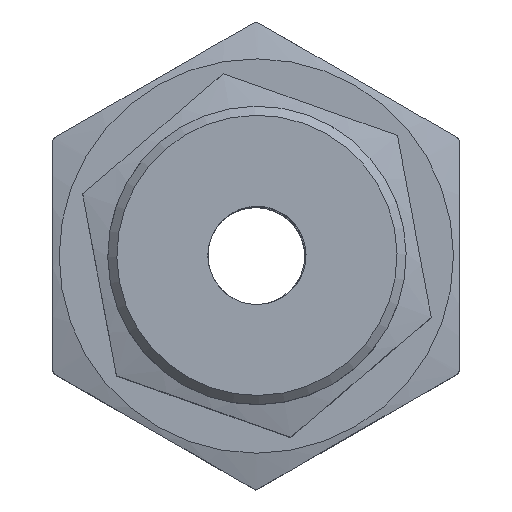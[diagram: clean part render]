
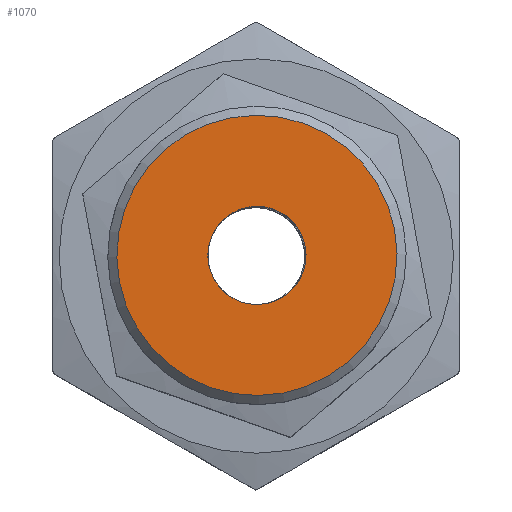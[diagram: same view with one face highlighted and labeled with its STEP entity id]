
A CAD part, top view. The second image highlights one B-rep face of the part: STEP entity #1070.
In plain terms, the highlighted planar face has unit normal (0, 0, 1) as drawn and (0, 1, 0) by its records, which use the part's own axes.
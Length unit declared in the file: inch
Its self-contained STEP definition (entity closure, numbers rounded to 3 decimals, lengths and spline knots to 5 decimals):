
#197=PLANE('',#1170);
#241=FACE_BOUND('',#382,.T.);
#288=FACE_OUTER_BOUND('',#381,.T.);
#381=EDGE_LOOP('',(#818));
#382=EDGE_LOOP('',(#819));
#482=CIRCLE('',#1167,0.1925);
#484=CIRCLE('',#1171,0.0675);
#541=VERTEX_POINT('',#3054);
#543=VERTEX_POINT('',#3060);
#651=EDGE_CURVE('',#541,#541,#482,.T.);
#653=EDGE_CURVE('',#543,#543,#484,.T.);
#818=ORIENTED_EDGE('',*,*,#651,.F.);
#819=ORIENTED_EDGE('',*,*,#653,.T.);
#1070=ADVANCED_FACE('',(#288,#241),#197,.T.);
#1167=AXIS2_PLACEMENT_3D('',#3055,#1341,#1342);
#1170=AXIS2_PLACEMENT_3D('',#3059,#1347,#1348);
#1171=AXIS2_PLACEMENT_3D('',#3061,#1349,#1350);
#1341=DIRECTION('center_axis',(0.,-1.,0.));
#1342=DIRECTION('ref_axis',(-1.,0.,0.));
#1347=DIRECTION('center_axis',(0.,1.,0.));
#1348=DIRECTION('ref_axis',(0.,0.,1.));
#1349=DIRECTION('center_axis',(0.,-1.,0.));
#1350=DIRECTION('ref_axis',(-1.,0.,0.));
#3054=CARTESIAN_POINT('',(0.1925,0.47913,0.));
#3055=CARTESIAN_POINT('Origin',(0.,0.47913,0.));
#3059=CARTESIAN_POINT('Origin',(0.,0.47913,0.));
#3060=CARTESIAN_POINT('',(0.0675,0.47913,0.));
#3061=CARTESIAN_POINT('Origin',(0.,0.47913,0.));
